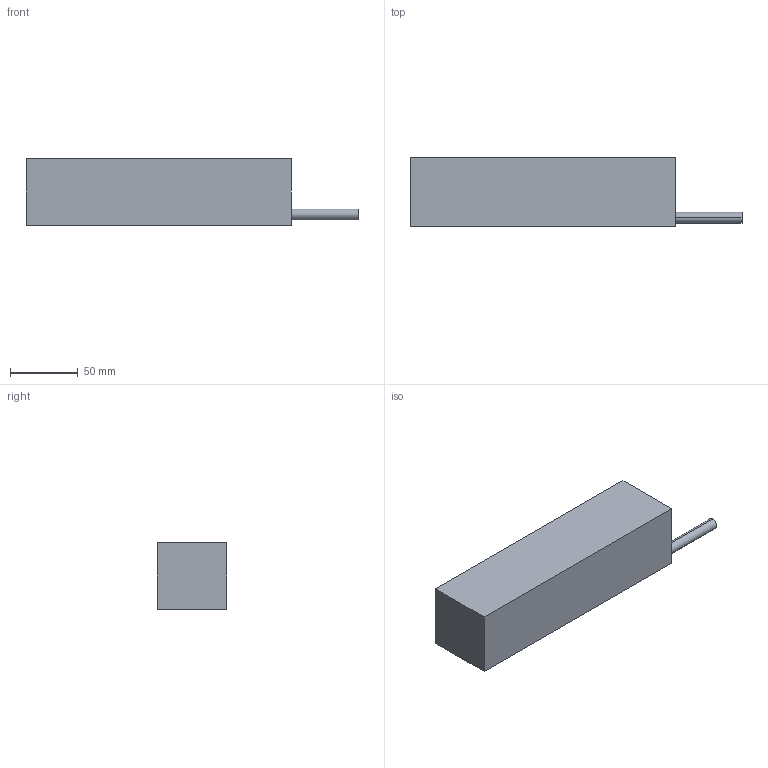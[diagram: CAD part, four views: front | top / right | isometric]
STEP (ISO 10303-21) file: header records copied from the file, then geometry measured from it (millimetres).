
FILE_DESCRIPTION (( 'STEP AP214' ), '1' );
FILE_NAME ('FLM-51-196.STEP', '2022-05-12T07:59:52', ( 'Microsoft' ), ( 'Microsoft' ), 'SwSTEP 2.0', 'SolidWorks 2016', '' );
FILE_SCHEMA (( 'AUTOMOTIVE_DESIGN' ));
Length unit declared in the file: millimetre
Products named in the file (1): FLM-51-196
Bounding box: 245.3 x 51 x 49.3 mm (x, y, z)
Volume: 494281.3 mm3; surface area: 46447.2 mm2
Topology: 1 solids, 1 shells, 81 faces, 186 edges, 96 vertices
Faces by surface type: cone 48, cylinder 26, plane 7
Entity records: 2382 total; most frequent: DIRECTION 402, CARTESIAN_POINT 340, ORIENTED_EDGE 324, EDGE_CURVE 162, AXIS2_PLACEMENT_3D 158, VERTEX_POINT 96, EDGE_LOOP 94, LINE 86
